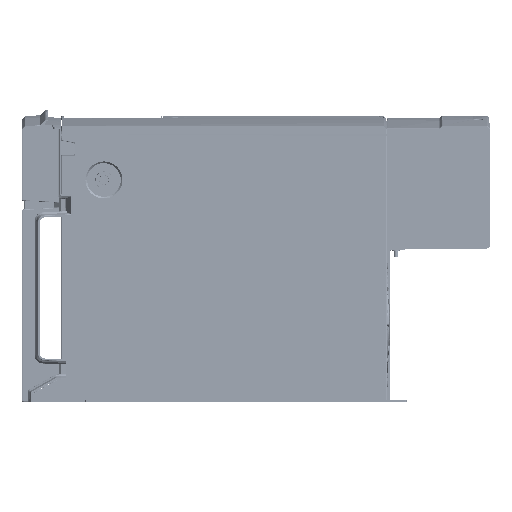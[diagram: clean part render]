
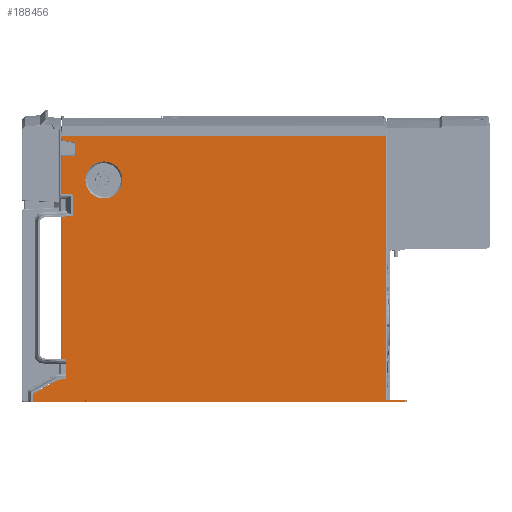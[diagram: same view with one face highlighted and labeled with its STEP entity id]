
A CAD part, left-side view. The second image highlights one B-rep face of the part: STEP entity #188456.
In plain terms, the highlighted planar face has unit normal (-1, 0, 0).
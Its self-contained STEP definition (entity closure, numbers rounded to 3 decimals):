
#478=DIRECTION('',(0.,1.,0.));
#479=VECTOR('',#478,17.15);
#480=CARTESIAN_POINT('',(-112.5,-306.7,-227.6));
#481=LINE('',#480,#479);
#1192=DIRECTION('',(0.,0.,-1.));
#1193=VECTOR('',#1192,1.5);
#1194=CARTESIAN_POINT('',(-112.5,-22.2,-227.6));
#1195=LINE('',#1194,#1193);
#1196=CARTESIAN_POINT('',(-112.5,-38.,-31.5));
#1197=DIRECTION('',(-1.,0.,0.));
#1198=DIRECTION('',(0.,1.,0.));
#1199=AXIS2_PLACEMENT_3D('',#1196,#1197,#1198);
#1201=CARTESIAN_POINT('',(-112.5,-38.,-31.5));
#1202=DIRECTION('',(-1.,0.,0.));
#1203=DIRECTION('',(0.,-1.,0.));
#1204=AXIS2_PLACEMENT_3D('',#1201,#1202,#1203);
#1206=DIRECTION('',(0.,0.,-1.));
#1207=VECTOR('',#1206,1.5);
#1208=CARTESIAN_POINT('',(-112.5,-306.7,-227.6));
#1209=LINE('',#1208,#1207);
#1210=DIRECTION('',(0.,1.,0.));
#1211=VECTOR('',#1210,284.5);
#1212=CARTESIAN_POINT('',(-112.5,-306.7,-229.1));
#1213=LINE('',#1212,#1211);
#1214=DIRECTION('',(0.,1.,0.));
#1215=VECTOR('',#1214,1.2);
#1216=CARTESIAN_POINT('',(-112.5,-22.2,-227.6));
#1217=LINE('',#1216,#1215);
#1218=DIRECTION('',(0.,-0.871,0.492));
#1219=VECTOR('',#1218,28.82);
#1220=CARTESIAN_POINT('',(-112.5,25.55,-222.363));
#1221=LINE('',#1220,#1219);
#1222=DIRECTION('',(0.,0.985,0.174));
#1223=VECTOR('',#1222,12.321);
#1224=CARTESIAN_POINT('',(-112.5,-12.584,
1.832));
#1225=LINE('',#1224,#1223);
#12003=DIRECTION('',(0.,-1.,0.));
#12004=VECTOR('',#12003,46.506);
#12005=CARTESIAN_POINT('',(-112.5,25.55,-229.1));
#12006=LINE('',#12005,#12004);
#13595=DIRECTION('',(0.,0.,1.));
#13596=VECTOR('',#13595,234.912);
#13597=CARTESIAN_POINT('',(-112.5,-289.55,-227.6));
#13598=LINE('',#13597,#13596);
#13609=DIRECTION('',(0.,1.,0.));
#13610=VECTOR('',#13609,289.1);
#13611=CARTESIAN_POINT('',(-112.5,-289.55,7.312));
#13612=LINE('',#13611,#13610);
#13624=DIRECTION('',(0.,0.,-1.));
#13625=VECTOR('',#13624,3.34);
#13626=CARTESIAN_POINT('',(-112.5,-0.45,7.312));
#13627=LINE('',#13626,#13625);
#14298=DIRECTION('',(0.,0.,-1.));
#14299=VECTOR('',#14298,197.928);
#14300=CARTESIAN_POINT('',(-112.5,-0.45,-10.184));
#14301=LINE('',#14300,#14299);
#14454=DIRECTION('',(0.,0.,-1.));
#14455=VECTOR('',#14454,12.017);
#14456=CARTESIAN_POINT('',(-112.5,-12.584,
1.832));
#14457=LINE('',#14456,#14455);
#14478=DIRECTION('',(0.,1.,0.));
#14479=VECTOR('',#14478,12.134);
#14480=CARTESIAN_POINT('',(-112.5,-12.584,-10.184));
#14481=LINE('',#14480,#14479);
#14748=DIRECTION('',(0.,0.996,-0.087));
#14749=VECTOR('',#14748,0.909);
#14750=CARTESIAN_POINT('',(-112.5,-0.45,-208.112));
#14751=LINE('',#14750,#14749);
#25145=DIRECTION('',(0.,0.,-1.));
#25146=VECTOR('',#25145,6.737);
#25147=CARTESIAN_POINT('',(-112.5,25.55,-222.363));
#25148=LINE('',#25147,#25146);
#28018=DIRECTION('',(0.,-0.029,1.));
#28019=VECTOR('',#28018,1.501);
#28020=CARTESIAN_POINT('',(-112.5,-20.956,-229.1));
#28021=LINE('',#28020,#28019);
#150180=CARTESIAN_POINT('',(-112.5,-54.5,-31.5));
#150181=CARTESIAN_POINT('',(-112.5,-21.5,-31.5));
#150182=VERTEX_POINT('',#150180);
#150183=VERTEX_POINT('',#150181);
#150194=CARTESIAN_POINT('',(-112.5,-0.45,-208.112));
#150195=CARTESIAN_POINT('',(-112.5,0.455,-208.192));
#150196=VERTEX_POINT('',#150194);
#150197=VERTEX_POINT('',#150195);
#150198=CARTESIAN_POINT('',(-112.5,-0.45,-10.184));
#150199=VERTEX_POINT('',#150198);
#150200=CARTESIAN_POINT('',(-112.5,-12.584,-10.184));
#150201=VERTEX_POINT('',#150200);
#150202=CARTESIAN_POINT('',(-112.5,-12.584,
1.832));
#150203=VERTEX_POINT('',#150202);
#150204=CARTESIAN_POINT('',(-112.5,-0.45,
3.972));
#150205=VERTEX_POINT('',#150204);
#150206=CARTESIAN_POINT('',(-112.5,-0.45,7.312));
#150207=VERTEX_POINT('',#150206);
#150208=CARTESIAN_POINT('',(-112.5,-289.55,7.312));
#150209=VERTEX_POINT('',#150208);
#150210=CARTESIAN_POINT('',(-112.5,-20.956,-229.1));
#150211=CARTESIAN_POINT('',(-112.5,-21.,-227.6));
#150212=VERTEX_POINT('',#150210);
#150213=VERTEX_POINT('',#150211);
#150214=CARTESIAN_POINT('',(-112.5,25.55,-229.1));
#150215=VERTEX_POINT('',#150214);
#150216=CARTESIAN_POINT('',(-112.5,25.55,-222.363));
#150217=VERTEX_POINT('',#150216);
#157731=CARTESIAN_POINT('',(-112.5,-22.2,-229.1));
#157733=VERTEX_POINT('',#157731);
#157734=CARTESIAN_POINT('',(-112.5,-306.7,-229.1));
#157736=VERTEX_POINT('',#157734);
#157994=CARTESIAN_POINT('',(-112.5,-306.7,-227.6));
#157995=VERTEX_POINT('',#157994);
#184177=CARTESIAN_POINT('',(-112.5,-22.2,-227.6));
#184179=VERTEX_POINT('',#184177);
#184465=CARTESIAN_POINT('',(-112.5,-289.55,-227.6));
#184466=VERTEX_POINT('',#184465);
#188413=CARTESIAN_POINT('',(-112.5,-132.,-110.894));
#188414=DIRECTION('',(1.,0.,0.));
#188415=DIRECTION('',(0.,0.,1.));
#188416=AXIS2_PLACEMENT_3D('',#188413,#188414,#188415);
#188417=PLANE('',#188416);
#188419=ORIENTED_EDGE('',*,*,#188418,.F.);
#188420=ORIENTED_EDGE('',*,*,#186720,.F.);
#188422=ORIENTED_EDGE('',*,*,#188421,.T.);
#188423=ORIENTED_EDGE('',*,*,#187587,.T.);
#188424=ORIENTED_EDGE('',*,*,#188399,.F.);
#188425=ORIENTED_EDGE('',*,*,#188238,.T.);
#188427=ORIENTED_EDGE('',*,*,#188426,.F.);
#188429=ORIENTED_EDGE('',*,*,#188428,.F.);
#188431=ORIENTED_EDGE('',*,*,#188430,.F.);
#188433=ORIENTED_EDGE('',*,*,#188432,.T.);
#188435=ORIENTED_EDGE('',*,*,#188434,.F.);
#188437=ORIENTED_EDGE('',*,*,#188436,.F.);
#188439=ORIENTED_EDGE('',*,*,#188438,.F.);
#188441=ORIENTED_EDGE('',*,*,#188440,.F.);
#188443=ORIENTED_EDGE('',*,*,#188442,.T.);
#188445=ORIENTED_EDGE('',*,*,#188444,.F.);
#188447=ORIENTED_EDGE('',*,*,#188446,.F.);
#188448=EDGE_LOOP('',(#188419,#188420,#188422,#188423,#188424,#188425,#188427,
#188429,#188431,#188433,#188435,#188437,#188439,#188441,#188443,#188445,
#188447));
#188449=FACE_OUTER_BOUND('',#188448,.F.);
#188451=ORIENTED_EDGE('',*,*,#188450,.T.);
#188453=ORIENTED_EDGE('',*,*,#188452,.T.);
#188454=EDGE_LOOP('',(#188451,#188453));
#188455=FACE_BOUND('',#188454,.F.);
#188456=ADVANCED_FACE('',(#188449,#188455),#188417,.F.);
#1200=CIRCLE('',#1199,16.499);
#1205=CIRCLE('',#1204,16.5);
#186720=EDGE_CURVE('',#157995,#184466,#481,.T.);
#187587=EDGE_CURVE('',#157736,#157733,#1213,.T.);
#188238=EDGE_CURVE('',#184179,#150213,#1217,.T.);
#188399=EDGE_CURVE('',#184179,#157733,#1195,.T.);
#188418=EDGE_CURVE('',#184466,#150209,#13598,.T.);
#188421=EDGE_CURVE('',#157995,#157736,#1209,.T.);
#188426=EDGE_CURVE('',#150212,#150213,#28021,.T.);
#188428=EDGE_CURVE('',#150215,#150212,#12006,.T.);
#188430=EDGE_CURVE('',#150217,#150215,#25148,.T.);
#188432=EDGE_CURVE('',#150217,#150197,#1221,.T.);
#188434=EDGE_CURVE('',#150196,#150197,#14751,.T.);
#188436=EDGE_CURVE('',#150199,#150196,#14301,.T.);
#188438=EDGE_CURVE('',#150201,#150199,#14481,.T.);
#188440=EDGE_CURVE('',#150203,#150201,#14457,.T.);
#188442=EDGE_CURVE('',#150203,#150205,#1225,.T.);
#188444=EDGE_CURVE('',#150207,#150205,#13627,.T.);
#188446=EDGE_CURVE('',#150209,#150207,#13612,.T.);
#188450=EDGE_CURVE('',#150183,#150182,#1200,.T.);
#188452=EDGE_CURVE('',#150182,#150183,#1205,.T.);
